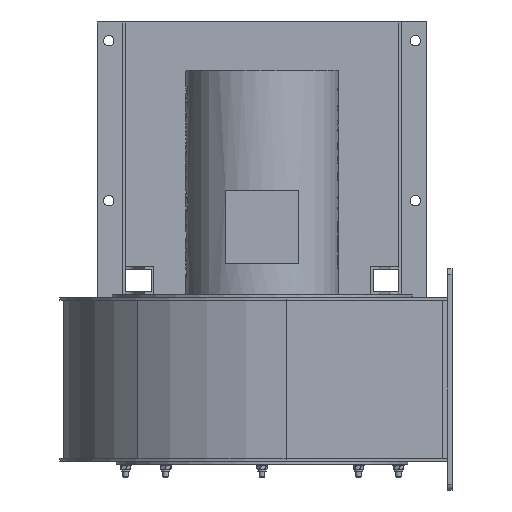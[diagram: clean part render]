
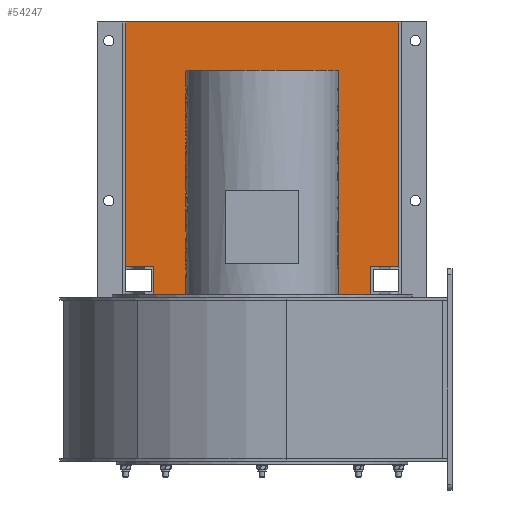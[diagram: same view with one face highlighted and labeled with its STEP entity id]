
A CAD part, front view. The second image highlights one B-rep face of the part: STEP entity #54247.
In plain terms, the highlighted planar face has unit normal (0, -1, 0).
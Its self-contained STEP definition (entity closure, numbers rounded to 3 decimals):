
#4149=PLANE('',#56864);
#6707=FACE_OUTER_BOUND('',#9857,.T.);
#9857=EDGE_LOOP('',(#43711,#43712,#43713,#43714,#43715,#43716,#43717,#43718,
#43719,#43720,#43721,#43722));
#12452=LINE('',#75580,#18764);
#12453=LINE('',#75583,#18765);
#12919=LINE('',#83881,#19231);
#12923=LINE('',#83887,#19235);
#12924=LINE('',#83896,#19236);
#14847=LINE('',#87820,#21159);
#14860=LINE('',#87845,#21172);
#14863=LINE('',#87849,#21175);
#14885=LINE('',#87893,#21197);
#14887=LINE('',#87898,#21199);
#14888=LINE('',#87899,#21200);
#14889=LINE('',#87900,#21201);
#18764=VECTOR('',#59315,10.);
#18765=VECTOR('',#59318,10.);
#19231=VECTOR('',#60710,10.);
#19235=VECTOR('',#60716,10.);
#19236=VECTOR('',#60725,10.);
#21159=VECTOR('',#62956,10.);
#21172=VECTOR('',#62981,10.);
#21175=VECTOR('',#62986,10.);
#21197=VECTOR('',#63024,10.);
#21199=VECTOR('',#63030,10.);
#21200=VECTOR('',#63031,10.);
#21201=VECTOR('',#63032,10.);
#25864=VERTEX_POINT('',#75576);
#25865=VERTEX_POINT('',#75577);
#25866=VERTEX_POINT('',#75579);
#25867=VERTEX_POINT('',#75581);
#26753=VERTEX_POINT('',#83879);
#26754=VERTEX_POINT('',#83880);
#26758=VERTEX_POINT('',#83894);
#26759=VERTEX_POINT('',#83895);
#28606=VERTEX_POINT('',#87818);
#28612=VERTEX_POINT('',#87843);
#28626=VERTEX_POINT('',#87892);
#28627=VERTEX_POINT('',#87897);
#31082=EDGE_CURVE('',#25866,#25864,#12452,.T.);
#31084=EDGE_CURVE('',#25865,#25867,#12453,.T.);
#32297=EDGE_CURVE('',#26753,#26754,#12919,.T.);
#32301=EDGE_CURVE('',#25867,#25866,#12923,.T.);
#32304=EDGE_CURVE('',#26758,#26759,#12924,.T.);
#34285=EDGE_CURVE('',#26759,#28606,#14847,.T.);
#34298=EDGE_CURVE('',#28606,#28612,#14860,.T.);
#34301=EDGE_CURVE('',#26753,#28612,#14863,.T.);
#34323=EDGE_CURVE('',#26754,#28626,#14885,.T.);
#34325=EDGE_CURVE('',#28627,#25864,#14887,.T.);
#34326=EDGE_CURVE('',#28627,#26758,#14888,.T.);
#34327=EDGE_CURVE('',#25865,#28626,#14889,.T.);
#43711=ORIENTED_EDGE('',*,*,#31084,.T.);
#43712=ORIENTED_EDGE('',*,*,#32301,.T.);
#43713=ORIENTED_EDGE('',*,*,#31082,.T.);
#43714=ORIENTED_EDGE('',*,*,#34325,.F.);
#43715=ORIENTED_EDGE('',*,*,#34326,.T.);
#43716=ORIENTED_EDGE('',*,*,#32304,.T.);
#43717=ORIENTED_EDGE('',*,*,#34285,.T.);
#43718=ORIENTED_EDGE('',*,*,#34298,.T.);
#43719=ORIENTED_EDGE('',*,*,#34301,.F.);
#43720=ORIENTED_EDGE('',*,*,#32297,.T.);
#43721=ORIENTED_EDGE('',*,*,#34323,.T.);
#43722=ORIENTED_EDGE('',*,*,#34327,.F.);
#54247=ADVANCED_FACE('',(#6707),#4149,.F.);
#56864=AXIS2_PLACEMENT_3D('',#87896,#63028,#63029);
#59315=DIRECTION('',(0.,0.,-1.));
#59318=DIRECTION('',(0.,0.,1.));
#60710=DIRECTION('',(1.,0.,0.));
#60716=DIRECTION('',(1.,0.,0.));
#60725=DIRECTION('',(1.,0.,0.));
#62956=DIRECTION('',(0.,0.,1.));
#62981=DIRECTION('',(-1.,0.,0.));
#62986=DIRECTION('',(0.,0.,1.));
#63024=DIRECTION('',(0.,0.,-1.));
#63028=DIRECTION('center_axis',(0.,1.,0.));
#63029=DIRECTION('ref_axis',(1.,0.,0.));
#63030=DIRECTION('',(-1.,0.,0.));
#63031=DIRECTION('',(0.,0.,1.));
#63032=DIRECTION('',(-1.,0.,0.));
#75576=CARTESIAN_POINT('',(12.689,80.,3.));
#75577=CARTESIAN_POINT('',(-12.689,80.,3.));
#75579=CARTESIAN_POINT('',(12.689,80.,241.848));
#75580=CARTESIAN_POINT('',(12.689,80.,-35.952));
#75581=CARTESIAN_POINT('',(-12.689,80.,241.848));
#75583=CARTESIAN_POINT('',(-12.689,80.,-35.952));
#83879=CARTESIAN_POINT('',(-145.,80.,33.));
#83880=CARTESIAN_POINT('',(-115.,80.,33.));
#83881=CARTESIAN_POINT('',(-57.5,80.,33.));
#83887=CARTESIAN_POINT('',(31.25,80.,241.848));
#83894=CARTESIAN_POINT('',(115.,80.,33.));
#83895=CARTESIAN_POINT('',(145.,80.,33.));
#83896=CARTESIAN_POINT('',(72.5,80.,33.));
#87818=CARTESIAN_POINT('',(145.,80.,293.));
#87820=CARTESIAN_POINT('',(145.,80.,148.));
#87843=CARTESIAN_POINT('',(-145.,80.,293.));
#87845=CARTESIAN_POINT('',(64.25,80.,293.));
#87849=CARTESIAN_POINT('',(-145.,80.,148.));
#87892=CARTESIAN_POINT('',(-115.,80.,3.));
#87893=CARTESIAN_POINT('',(-115.,80.,75.5));
#87896=CARTESIAN_POINT('Origin',(62.5,80.,53.));
#87897=CARTESIAN_POINT('',(115.,80.,3.));
#87898=CARTESIAN_POINT('',(-20.015,80.,3.));
#87899=CARTESIAN_POINT('',(115.,80.,90.5));
#87900=CARTESIAN_POINT('',(-20.015,80.,3.));
